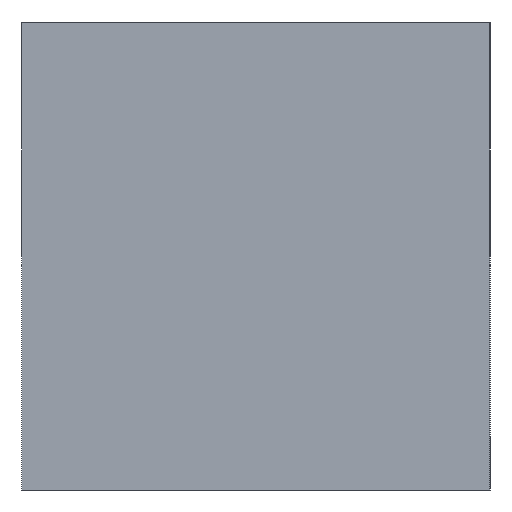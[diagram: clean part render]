
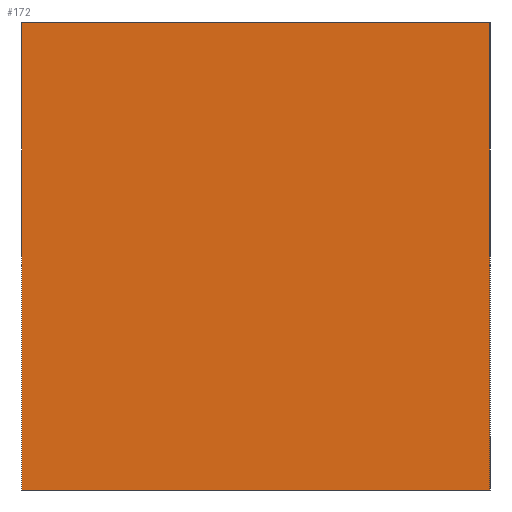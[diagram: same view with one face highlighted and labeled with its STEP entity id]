
A CAD part, left-side view. The second image highlights one B-rep face of the part: STEP entity #172.
In plain terms, the highlighted planar face has unit normal (-1, 0, 0).
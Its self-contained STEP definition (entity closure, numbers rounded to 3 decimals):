
#21 = EDGE_CURVE('',#22,#24,#26,.T.);
#22 = VERTEX_POINT('',#23);
#23 = CARTESIAN_POINT('',(0.,13.,0.));
#24 = VERTEX_POINT('',#25);
#25 = CARTESIAN_POINT('',(0.,13.,13.));
#26 = SURFACE_CURVE('',#27,(#31,#43),.PCURVE_S1.);
#27 = LINE('',#28,#29);
#28 = CARTESIAN_POINT('',(0.,13.,0.));
#29 = VECTOR('',#30,1.);
#30 = DIRECTION('',(0.,0.,1.));
#31 = PCURVE('',#32,#37);
#32 = PLANE('',#33);
#33 = AXIS2_PLACEMENT_3D('',#34,#35,#36);
#34 = CARTESIAN_POINT('',(0.,13.,0.));
#35 = DIRECTION('',(0.,1.,0.));
#36 = DIRECTION('',(1.,0.,0.));
#37 = DEFINITIONAL_REPRESENTATION('',(#38),#42);
#38 = LINE('',#39,#40);
#39 = CARTESIAN_POINT('',(0.,0.));
#40 = VECTOR('',#41,1.);
#41 = DIRECTION('',(0.,-1.));
#42 = ( GEOMETRIC_REPRESENTATION_CONTEXT(2) 
PARAMETRIC_REPRESENTATION_CONTEXT() REPRESENTATION_CONTEXT('2D SPACE',''
  ) );
#43 = PCURVE('',#44,#49);
#44 = PLANE('',#45);
#45 = AXIS2_PLACEMENT_3D('',#46,#47,#48);
#46 = CARTESIAN_POINT('',(0.,0.,0.));
#47 = DIRECTION('',(-1.,0.,0.));
#48 = DIRECTION('',(0.,1.,0.));
#49 = DEFINITIONAL_REPRESENTATION('',(#50),#54);
#50 = LINE('',#51,#52);
#51 = CARTESIAN_POINT('',(13.,0.));
#52 = VECTOR('',#53,1.);
#53 = DIRECTION('',(0.,-1.));
#54 = ( GEOMETRIC_REPRESENTATION_CONTEXT(2) 
PARAMETRIC_REPRESENTATION_CONTEXT() REPRESENTATION_CONTEXT('2D SPACE',''
  ) );
#72 = PLANE('',#73);
#73 = AXIS2_PLACEMENT_3D('',#74,#75,#76);
#74 = CARTESIAN_POINT('',(30.,6.5,13.));
#75 = DIRECTION('',(-0.,-0.,-1.));
#76 = DIRECTION('',(-1.,0.,0.));
#126 = PLANE('',#127);
#127 = AXIS2_PLACEMENT_3D('',#128,#129,#130);
#128 = CARTESIAN_POINT('',(30.,6.5,0.));
#129 = DIRECTION('',(-0.,-0.,-1.));
#130 = DIRECTION('',(-1.,0.,0.));
#172 = ADVANCED_FACE('',(#173),#44,.T.);
#173 = FACE_BOUND('',#174,.T.);
#174 = EDGE_LOOP('',(#175,#205,#226,#227));
#175 = ORIENTED_EDGE('',*,*,#176,.T.);
#176 = EDGE_CURVE('',#177,#179,#181,.T.);
#177 = VERTEX_POINT('',#178);
#178 = CARTESIAN_POINT('',(0.,0.,0.));
#179 = VERTEX_POINT('',#180);
#180 = CARTESIAN_POINT('',(0.,0.,13.));
#181 = SURFACE_CURVE('',#182,(#186,#193),.PCURVE_S1.);
#182 = LINE('',#183,#184);
#183 = CARTESIAN_POINT('',(0.,0.,0.));
#184 = VECTOR('',#185,1.);
#185 = DIRECTION('',(0.,0.,1.));
#186 = PCURVE('',#44,#187);
#187 = DEFINITIONAL_REPRESENTATION('',(#188),#192);
#188 = LINE('',#189,#190);
#189 = CARTESIAN_POINT('',(0.,0.));
#190 = VECTOR('',#191,1.);
#191 = DIRECTION('',(0.,-1.));
#192 = ( GEOMETRIC_REPRESENTATION_CONTEXT(2) 
PARAMETRIC_REPRESENTATION_CONTEXT() REPRESENTATION_CONTEXT('2D SPACE',''
  ) );
#193 = PCURVE('',#194,#199);
#194 = PLANE('',#195);
#195 = AXIS2_PLACEMENT_3D('',#196,#197,#198);
#196 = CARTESIAN_POINT('',(60.,0.,0.));
#197 = DIRECTION('',(0.,-1.,0.));
#198 = DIRECTION('',(-1.,0.,0.));
#199 = DEFINITIONAL_REPRESENTATION('',(#200),#204);
#200 = LINE('',#201,#202);
#201 = CARTESIAN_POINT('',(60.,0.));
#202 = VECTOR('',#203,1.);
#203 = DIRECTION('',(0.,-1.));
#204 = ( GEOMETRIC_REPRESENTATION_CONTEXT(2) 
PARAMETRIC_REPRESENTATION_CONTEXT() REPRESENTATION_CONTEXT('2D SPACE',''
  ) );
#205 = ORIENTED_EDGE('',*,*,#206,.T.);
#206 = EDGE_CURVE('',#179,#24,#207,.T.);
#207 = SURFACE_CURVE('',#208,(#212,#219),.PCURVE_S1.);
#208 = LINE('',#209,#210);
#209 = CARTESIAN_POINT('',(0.,0.,13.));
#210 = VECTOR('',#211,1.);
#211 = DIRECTION('',(0.,1.,0.));
#212 = PCURVE('',#44,#213);
#213 = DEFINITIONAL_REPRESENTATION('',(#214),#218);
#214 = LINE('',#215,#216);
#215 = CARTESIAN_POINT('',(0.,-13.));
#216 = VECTOR('',#217,1.);
#217 = DIRECTION('',(1.,0.));
#218 = ( GEOMETRIC_REPRESENTATION_CONTEXT(2) 
PARAMETRIC_REPRESENTATION_CONTEXT() REPRESENTATION_CONTEXT('2D SPACE',''
  ) );
#219 = PCURVE('',#72,#220);
#220 = DEFINITIONAL_REPRESENTATION('',(#221),#225);
#221 = LINE('',#222,#223);
#222 = CARTESIAN_POINT('',(30.,-6.5));
#223 = VECTOR('',#224,1.);
#224 = DIRECTION('',(0.,1.));
#225 = ( GEOMETRIC_REPRESENTATION_CONTEXT(2) 
PARAMETRIC_REPRESENTATION_CONTEXT() REPRESENTATION_CONTEXT('2D SPACE',''
  ) );
#226 = ORIENTED_EDGE('',*,*,#21,.F.);
#227 = ORIENTED_EDGE('',*,*,#228,.F.);
#228 = EDGE_CURVE('',#177,#22,#229,.T.);
#229 = SURFACE_CURVE('',#230,(#234,#241),.PCURVE_S1.);
#230 = LINE('',#231,#232);
#231 = CARTESIAN_POINT('',(0.,0.,0.));
#232 = VECTOR('',#233,1.);
#233 = DIRECTION('',(0.,1.,0.));
#234 = PCURVE('',#44,#235);
#235 = DEFINITIONAL_REPRESENTATION('',(#236),#240);
#236 = LINE('',#237,#238);
#237 = CARTESIAN_POINT('',(0.,0.));
#238 = VECTOR('',#239,1.);
#239 = DIRECTION('',(1.,0.));
#240 = ( GEOMETRIC_REPRESENTATION_CONTEXT(2) 
PARAMETRIC_REPRESENTATION_CONTEXT() REPRESENTATION_CONTEXT('2D SPACE',''
  ) );
#241 = PCURVE('',#126,#242);
#242 = DEFINITIONAL_REPRESENTATION('',(#243),#247);
#243 = LINE('',#244,#245);
#244 = CARTESIAN_POINT('',(30.,-6.5));
#245 = VECTOR('',#246,1.);
#246 = DIRECTION('',(0.,1.));
#247 = ( GEOMETRIC_REPRESENTATION_CONTEXT(2) 
PARAMETRIC_REPRESENTATION_CONTEXT() REPRESENTATION_CONTEXT('2D SPACE',''
  ) );
